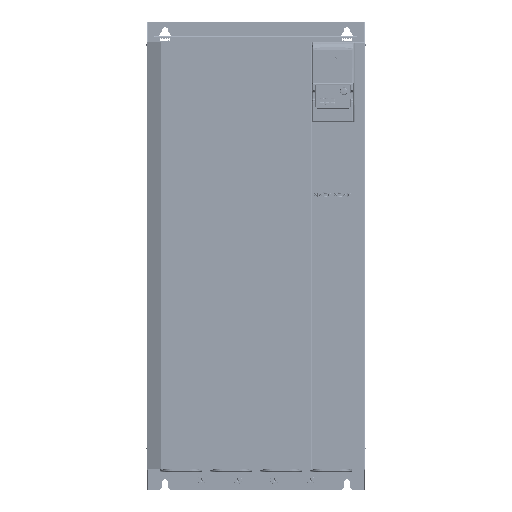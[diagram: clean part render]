
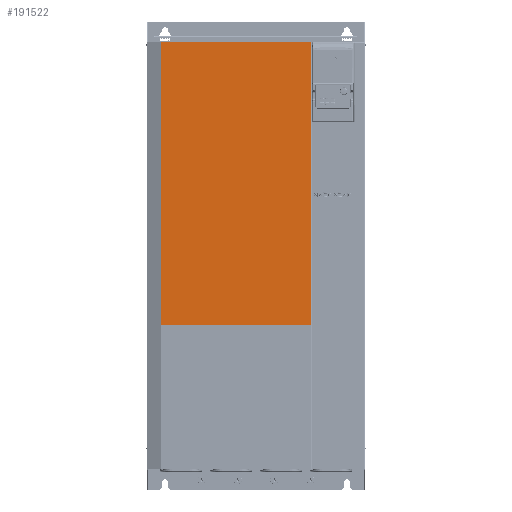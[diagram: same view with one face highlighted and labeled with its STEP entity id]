
A CAD part, top view. The second image highlights one B-rep face of the part: STEP entity #191522.
In plain terms, the highlighted planar face has unit normal (0, 0, 1) as drawn and (0, 1, 0) by its records, which use the part's own axes.
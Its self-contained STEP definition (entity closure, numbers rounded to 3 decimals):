
#189743=DIRECTION('',(0.,0.,-1.));
#189744=VECTOR('',#189743,621.2);
#189745=CARTESIAN_POINT('',(-2.,0.,310.85));
#189746=LINE('',#189745,#189744);
#189855=DIRECTION('',(-1.,0.,0.));
#189856=VECTOR('',#189855,329.872);
#189857=CARTESIAN_POINT('',(-2.,0.,-310.35));
#189858=LINE('',#189857,#189856);
#189869=DIRECTION('',(1.,0.,0.));
#189870=VECTOR('',#189869,329.872);
#189871=CARTESIAN_POINT('',(-331.872,0.,310.85));
#189872=LINE('',#189871,#189870);
#189913=DIRECTION('',(0.,0.,1.));
#189914=VECTOR('',#189913,621.2);
#189915=CARTESIAN_POINT('',(-331.872,0.,-310.35));
#189916=LINE('',#189915,#189914);
#190985=CARTESIAN_POINT('',(-2.,0.,310.85));
#190986=VERTEX_POINT('',#190985);
#190987=CARTESIAN_POINT('',(-2.,0.,-310.35));
#190988=VERTEX_POINT('',#190987);
#190999=CARTESIAN_POINT('',(-331.872,0.,-310.35));
#191000=VERTEX_POINT('',#190999);
#191003=CARTESIAN_POINT('',(-331.872,0.,310.85));
#191004=VERTEX_POINT('',#191003);
#191509=CARTESIAN_POINT('',(0.,0.,0.));
#191510=DIRECTION('',(0.,1.,0.));
#191511=DIRECTION('',(1.,0.,0.));
#191512=AXIS2_PLACEMENT_3D('',#191509,#191510,#191511);
#191513=PLANE('',#191512);
#191514=ORIENTED_EDGE('',*,*,#191403,.F.);
#191516=ORIENTED_EDGE('',*,*,#191515,.F.);
#191518=ORIENTED_EDGE('',*,*,#191517,.F.);
#191519=ORIENTED_EDGE('',*,*,#191499,.F.);
#191520=EDGE_LOOP('',(#191514,#191516,#191518,#191519));
#191521=FACE_OUTER_BOUND('',#191520,.F.);
#191403=EDGE_CURVE('',#190986,#190988,#189746,.T.);
#191499=EDGE_CURVE('',#190988,#191000,#189858,.T.);
#191515=EDGE_CURVE('',#191004,#190986,#189872,.T.);
#191517=EDGE_CURVE('',#191000,#191004,#189916,.T.);
#191522=ADVANCED_FACE('',(#191521),#191513,.T.);
